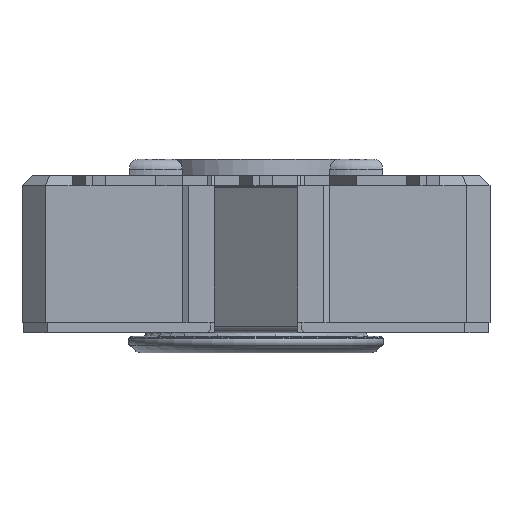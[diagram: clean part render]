
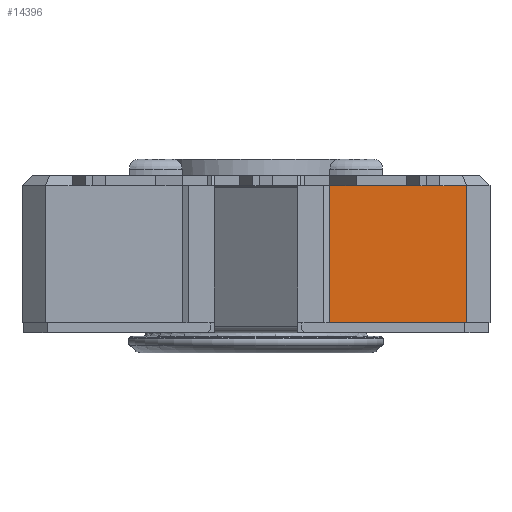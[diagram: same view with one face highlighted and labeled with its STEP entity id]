
A CAD part, front view. The second image highlights one B-rep face of the part: STEP entity #14396.
In plain terms, the highlighted planar face has unit normal (0, -1, 0).
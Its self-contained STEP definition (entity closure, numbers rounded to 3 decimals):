
#1312=FACE_OUTER_BOUND('',#2055,.T.);
#2055=EDGE_LOOP('',(#12319,#12320,#12321,#12322,#12323,#12324));
#2115=LINE('',#19244,#3686);
#2339=LINE('',#19889,#3910);
#2954=LINE('',#21730,#4525);
#3228=LINE('',#22626,#4799);
#3620=LINE('',#23468,#5191);
#3622=LINE('',#23472,#5193);
#3686=VECTOR('',#15548,10.);
#3910=VECTOR('',#16118,10.);
#4525=VECTOR('',#17483,10.);
#4799=VECTOR('',#18181,10.);
#5191=VECTOR('',#19041,10.);
#5193=VECTOR('',#19047,10.);
#5259=VERTEX_POINT('',#19242);
#5260=VERTEX_POINT('',#19243);
#5454=VERTEX_POINT('',#19888);
#6014=VERTEX_POINT('',#21727);
#6015=VERTEX_POINT('',#21729);
#6285=VERTEX_POINT('',#22621);
#6545=EDGE_CURVE('',#5259,#5260,#2115,.T.);
#6841=EDGE_CURVE('',#5454,#5259,#2339,.T.);
#7643=EDGE_CURVE('',#6014,#6015,#2954,.T.);
#8027=EDGE_CURVE('',#5454,#6285,#3228,.T.);
#8444=EDGE_CURVE('',#5260,#6015,#3620,.T.);
#8446=EDGE_CURVE('',#6014,#6285,#3622,.T.);
#12319=ORIENTED_EDGE('',*,*,#8027,.F.);
#12320=ORIENTED_EDGE('',*,*,#6841,.T.);
#12321=ORIENTED_EDGE('',*,*,#6545,.T.);
#12322=ORIENTED_EDGE('',*,*,#8444,.T.);
#12323=ORIENTED_EDGE('',*,*,#7643,.F.);
#12324=ORIENTED_EDGE('',*,*,#8446,.T.);
#12990=PLANE('',#15456);
#14396=ADVANCED_FACE('',(#1312),#12990,.T.);
#15456=AXIS2_PLACEMENT_3D('',#23471,#19045,#19046);
#15548=DIRECTION('',(-1.,0.,0.));
#16118=DIRECTION('',(-1.,0.,0.));
#17483=DIRECTION('',(-1.,0.,0.));
#18181=DIRECTION('',(1.,0.,0.));
#19041=DIRECTION('',(0.,0.,-1.));
#19045=DIRECTION('center_axis',(0.,-1.,0.));
#19046=DIRECTION('ref_axis',(0.,0.,-1.));
#19047=DIRECTION('',(0.,0.,1.));
#19242=CARTESIAN_POINT('',(4.7,-6.95,1.875));
#19243=CARTESIAN_POINT('',(2.2,-6.95,1.875));
#19244=CARTESIAN_POINT('',(5.072,-6.95,1.875));
#19888=CARTESIAN_POINT('',(5.225,-6.95,1.875));
#19889=CARTESIAN_POINT('',(5.072,-6.95,1.875));
#21727=CARTESIAN_POINT('',(6.3,-6.95,-2.225));
#21729=CARTESIAN_POINT('',(2.2,-6.95,-2.225));
#21730=CARTESIAN_POINT('',(6.3,-6.95,-2.225));
#22621=CARTESIAN_POINT('',(6.3,-6.95,1.875));
#22626=CARTESIAN_POINT('',(3.15,-6.95,1.875));
#23468=CARTESIAN_POINT('',(2.2,-6.95,-2.225));
#23471=CARTESIAN_POINT('Origin',(6.3,-6.95,-2.225));
#23472=CARTESIAN_POINT('',(6.3,-6.95,-2.225));
